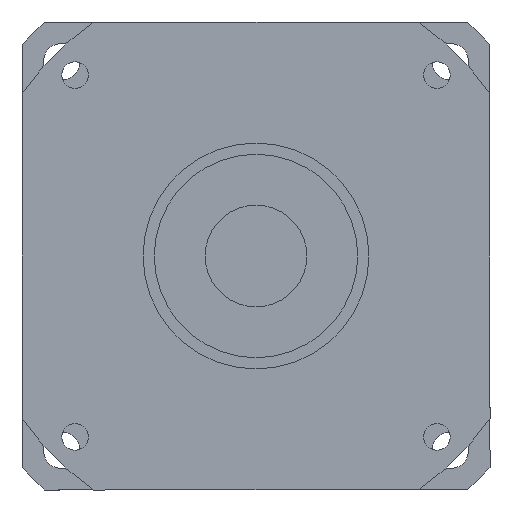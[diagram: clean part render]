
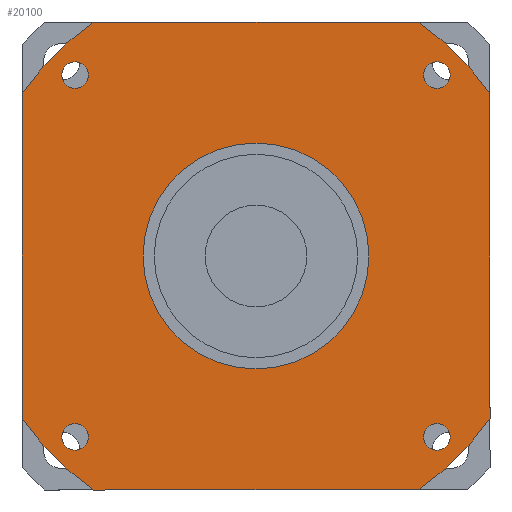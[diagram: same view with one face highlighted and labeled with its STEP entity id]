
A CAD part, left-side view. The second image highlights one B-rep face of the part: STEP entity #20100.
In plain terms, the highlighted planar face has unit normal (-1, 0, 0) as drawn and (0, 0, -1) by its records, which use the part's own axes.
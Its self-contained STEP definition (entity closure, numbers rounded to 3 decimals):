
#15930=CARTESIAN_POINT('',(0.,0.,
-120.));
#15940=DIRECTION('',(0.,0.,1.));
#15950=DIRECTION('',(0.,-1.,0.));
#15960=AXIS2_PLACEMENT_3D('',#15930,#15940,#15950);
#15970=CIRCLE('',#15960,27.76);
#15980=CARTESIAN_POINT('',(0.,-27.76,-120.));
#15990=VERTEX_POINT('',#15980);
#16000=CARTESIAN_POINT('',(27.76,0.,-120.));
#16010=VERTEX_POINT('',#16000);
#16020=EDGE_CURVE('',#15990,#16010,#15970,.T.);
#16150=CARTESIAN_POINT('',(-27.76,0.,-120.));
#16160=VERTEX_POINT('',#16150);
#16190=EDGE_CURVE('',#16160,#15990,#15970,.T.);
#16350=CARTESIAN_POINT('',(39.922,57.5,-120.));
#16360=VERTEX_POINT('',#16350);
#16390=CARTESIAN_POINT('',(0.,0.,
-120.));
#16400=DIRECTION('',(0.,0.,1.));
#16410=DIRECTION('',(0.,-1.,0.));
#16420=AXIS2_PLACEMENT_3D('',#16390,#16400,#16410);
#16430=CIRCLE('',#16420,70.);
#16440=CARTESIAN_POINT('',(57.5,39.922,-120.));
#16450=VERTEX_POINT('',#16440);
#16460=EDGE_CURVE('',#16450,#16360,#16430,.T.);
#18490=CARTESIAN_POINT('',(-41.199,-44.449,-120.));
#18500=VERTEX_POINT('',#18490);
#18580=CARTESIAN_POINT('',(-47.699,-44.449,-120.));
#18590=VERTEX_POINT('',#18580);
#18620=CARTESIAN_POINT('',(-44.449,-44.449,-120.));
#18630=DIRECTION('',(0.,0.,-1.));
#18640=DIRECTION('',(0.,-1.,0.));
#18650=AXIS2_PLACEMENT_3D('',#18620,#18630,#18640);
#18660=CIRCLE('',#18650,3.25);
#18670=CARTESIAN_POINT('',(-44.449,-47.699,-120.));
#18680=VERTEX_POINT('',#18670);
#18690=EDGE_CURVE('',#18680,#18590,#18660,.T.);
#18710=EDGE_CURVE('',#18500,#18680,#18660,.T.);
#18760=CARTESIAN_POINT('',(-57.5,57.5,-120.));
#18770=DIRECTION('',(0.,0.,1.));
#18780=DIRECTION('',(-1.,0.,0.));
#18790=AXIS2_PLACEMENT_3D('',#18760,#18770,#18780);
#18800=PLANE('',#18790);
#18810=CARTESIAN_POINT('',(44.449,-44.449,-120.));
#18820=DIRECTION('',(0.,0.,-1.));
#18830=DIRECTION('',(1.,0.,0.));
#18840=AXIS2_PLACEMENT_3D('',#18810,#18820,#18830);
#18850=CIRCLE('',#18840,3.25);
#18860=CARTESIAN_POINT('',(47.699,-44.449,-120.));
#18870=VERTEX_POINT('',#18860);
#18880=CARTESIAN_POINT('',(44.449,-47.699,-120.));
#18890=VERTEX_POINT('',#18880);
#18900=EDGE_CURVE('',#18870,#18890,#18850,.T.);
#18910=ORIENTED_EDGE('',*,*,#18900,.F.);
#18920=CARTESIAN_POINT('',(44.449,-41.199,-120.));
#18930=VERTEX_POINT('',#18920);
#18940=EDGE_CURVE('',#18890,#18930,#18850,.T.);
#18950=ORIENTED_EDGE('',*,*,#18940,.F.);
#18960=EDGE_CURVE('',#18930,#18870,#18850,.T.);
#18970=ORIENTED_EDGE('',*,*,#18960,.F.);
#18980=EDGE_LOOP('',(#18970,#18950,#18910));
#18990=FACE_BOUND('',#18980,.T.);
#19000=CARTESIAN_POINT('',(44.449,44.449,-120.));
#19010=DIRECTION('',(0.,0.,-1.));
#19020=DIRECTION('',(0.,1.,0.));
#19030=AXIS2_PLACEMENT_3D('',#19000,#19010,#19020);
#19040=CIRCLE('',#19030,3.25);
#19050=CARTESIAN_POINT('',(44.449,47.699,-120.));
#19060=VERTEX_POINT('',#19050);
#19070=CARTESIAN_POINT('',(47.699,44.449,-120.));
#19080=VERTEX_POINT('',#19070);
#19090=EDGE_CURVE('',#19060,#19080,#19040,.T.);
#19100=ORIENTED_EDGE('',*,*,#19090,.F.);
#19110=CARTESIAN_POINT('',(41.199,44.449,-120.));
#19120=VERTEX_POINT('',#19110);
#19130=EDGE_CURVE('',#19080,#19120,#19040,.T.);
#19140=ORIENTED_EDGE('',*,*,#19130,.F.);
#19150=EDGE_CURVE('',#19120,#19060,#19040,.T.);
#19160=ORIENTED_EDGE('',*,*,#19150,.F.);
#19170=EDGE_LOOP('',(#19160,#19140,#19100));
#19180=FACE_BOUND('',#19170,.T.);
#19190=CARTESIAN_POINT('',(-44.449,44.449,-120.));
#19200=DIRECTION('',(0.,0.,-1.));
#19210=DIRECTION('',(-1.,0.,0.));
#19220=AXIS2_PLACEMENT_3D('',#19190,#19200,#19210);
#19230=CIRCLE('',#19220,3.25);
#19240=CARTESIAN_POINT('',(-47.699,44.449,-120.));
#19250=VERTEX_POINT('',#19240);
#19260=CARTESIAN_POINT('',(-44.449,47.699,-120.));
#19270=VERTEX_POINT('',#19260);
#19280=EDGE_CURVE('',#19250,#19270,#19230,.T.);
#19290=ORIENTED_EDGE('',*,*,#19280,.F.);
#19300=CARTESIAN_POINT('',(-44.449,41.199,-120.));
#19310=VERTEX_POINT('',#19300);
#19320=EDGE_CURVE('',#19270,#19310,#19230,.T.);
#19330=ORIENTED_EDGE('',*,*,#19320,.F.);
#19340=EDGE_CURVE('',#19310,#19250,#19230,.T.);
#19350=ORIENTED_EDGE('',*,*,#19340,.F.);
#19360=EDGE_LOOP('',(#19350,#19330,#19290));
#19370=FACE_BOUND('',#19360,.T.);
#19380=ORIENTED_EDGE('',*,*,#18690,.F.);
#19390=EDGE_CURVE('',#18590,#18500,#18660,.T.);
#19400=ORIENTED_EDGE('',*,*,#19390,.F.);
#19410=ORIENTED_EDGE('',*,*,#18710,.F.);
#19420=EDGE_LOOP('',(#19410,#19400,#19380));
#19430=FACE_BOUND('',#19420,.T.);
#19440=CARTESIAN_POINT('',(0.,0.,
-120.));
#19450=DIRECTION('',(0.,0.,1.));
#19460=DIRECTION('',(0.,-1.,0.));
#19470=AXIS2_PLACEMENT_3D('',#19440,#19450,#19460);
#19480=CIRCLE('',#19470,70.);
#19490=CARTESIAN_POINT('',(-57.5,-39.922,-120.));
#19500=VERTEX_POINT('',#19490);
#19510=CARTESIAN_POINT('',(-39.922,-57.5,-120.));
#19520=VERTEX_POINT('',#19510);
#19530=EDGE_CURVE('',#19500,#19520,#19480,.T.);
#19540=ORIENTED_EDGE('',*,*,#19530,.F.);
#19550=CARTESIAN_POINT('',(-57.5,-57.5,-120.));
#19560=DIRECTION('',(1.,0.,0.));
#19570=VECTOR('',#19560,1000.);
#19580=LINE('',#19550,#19570);
#19590=CARTESIAN_POINT('',(39.922,-57.5,-120.));
#19600=VERTEX_POINT('',#19590);
#19610=EDGE_CURVE('',#19520,#19600,#19580,.T.);
#19620=ORIENTED_EDGE('',*,*,#19610,.F.);
#19630=CARTESIAN_POINT('',(0.,0.,
-120.));
#19640=DIRECTION('',(0.,0.,1.));
#19650=DIRECTION('',(0.,-1.,0.));
#19660=AXIS2_PLACEMENT_3D('',#19630,#19640,#19650);
#19670=CIRCLE('',#19660,70.);
#19680=CARTESIAN_POINT('',(57.5,-39.922,-120.));
#19690=VERTEX_POINT('',#19680);
#19700=EDGE_CURVE('',#19600,#19690,#19670,.T.);
#19710=ORIENTED_EDGE('',*,*,#19700,.F.);
#19720=CARTESIAN_POINT('',(57.5,-57.5,-120.));
#19730=DIRECTION('',(0.,1.,0.));
#19740=VECTOR('',#19730,1000.);
#19750=LINE('',#19720,#19740);
#19760=EDGE_CURVE('',#19690,#16450,#19750,.T.);
#19770=ORIENTED_EDGE('',*,*,#19760,.F.);
#19780=ORIENTED_EDGE('',*,*,#16460,.F.);
#19790=CARTESIAN_POINT('',(57.5,57.5,-120.));
#19800=DIRECTION('',(-1.,0.,0.));
#19810=VECTOR('',#19800,1000.);
#19820=LINE('',#19790,#19810);
#19830=CARTESIAN_POINT('',(-39.922,57.5,-120.));
#19840=VERTEX_POINT('',#19830);
#19850=EDGE_CURVE('',#16360,#19840,#19820,.T.);
#19860=ORIENTED_EDGE('',*,*,#19850,.F.);
#19870=CARTESIAN_POINT('',(0.,0.,
-120.));
#19880=DIRECTION('',(0.,0.,1.));
#19890=DIRECTION('',(0.,-1.,0.));
#19900=AXIS2_PLACEMENT_3D('',#19870,#19880,#19890);
#19910=CIRCLE('',#19900,70.);
#19920=CARTESIAN_POINT('',(-57.5,39.922,-120.));
#19930=VERTEX_POINT('',#19920);
#19940=EDGE_CURVE('',#19840,#19930,#19910,.T.);
#19950=ORIENTED_EDGE('',*,*,#19940,.F.);
#19960=CARTESIAN_POINT('',(-57.5,57.5,-120.));
#19970=DIRECTION('',(0.,-1.,0.));
#19980=VECTOR('',#19970,1000.);
#19990=LINE('',#19960,#19980);
#20000=EDGE_CURVE('',#19930,#19500,#19990,.T.);
#20010=ORIENTED_EDGE('',*,*,#20000,.F.);
#20020=EDGE_LOOP('',(#20010,#19950,#19860,#19780,#19770,#19710,#19620,
#19540));
#20030=FACE_OUTER_BOUND('',#20020,.T.);
#20040=EDGE_CURVE('',#16010,#16160,#15970,.T.);
#20050=ORIENTED_EDGE('',*,*,#20040,.T.);
#20060=ORIENTED_EDGE('',*,*,#16020,.T.);
#20070=ORIENTED_EDGE('',*,*,#16190,.T.);
#20080=EDGE_LOOP('',(#20070,#20060,#20050));
#20090=FACE_BOUND('',#20080,.T.);
#20100=ADVANCED_FACE('',(#18990,#19180,#19370,#19430,#20030,#20090),
#18800,.F.);
